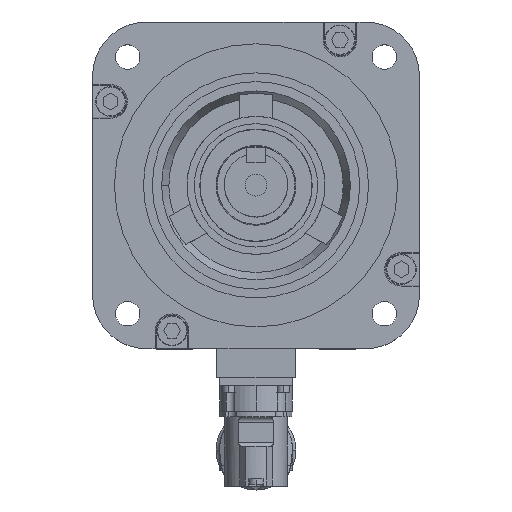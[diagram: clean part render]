
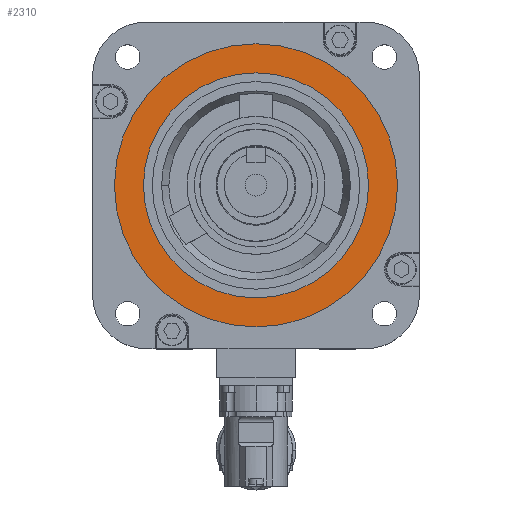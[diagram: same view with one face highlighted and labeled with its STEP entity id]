
A CAD part, top view. The second image highlights one B-rep face of the part: STEP entity #2310.
In plain terms, the highlighted planar face has unit normal (0, 0, 1).
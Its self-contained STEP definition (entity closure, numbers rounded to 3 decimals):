
#1116 = EDGE_CURVE ( 'NONE', #1120, #1126, #8826, .T. ) ;
#1120 = VERTEX_POINT ( 'NONE', #8810 ) ;
#1126 = VERTEX_POINT ( 'NONE', #8866 ) ;
#1419 = VERTEX_POINT ( 'NONE', #9391 ) ;
#1429 = EDGE_CURVE ( 'NONE', #1442, #1419, #9429, .T. ) ;
#1442 = VERTEX_POINT ( 'NONE', #9416 ) ;
#2286 = ORIENTED_EDGE ( 'NONE', *, *, #1429, .F. ) ;
#2287 = ORIENTED_EDGE ( 'NONE', *, *, #1116, .T. ) ;
#2291 = EDGE_LOOP ( 'NONE', ( #2292, #2286 ) ) ;
#2292 = ORIENTED_EDGE ( 'NONE', *, *, #2294, .F. ) ;
#2294 = EDGE_CURVE ( 'NONE', #1419, #1442, #11239, .T. ) ;
#2299 = EDGE_LOOP ( 'NONE', ( #2300, #2287 ) ) ;
#2300 = ORIENTED_EDGE ( 'NONE', *, *, #2305, .T. ) ;
#2305 = EDGE_CURVE ( 'NONE', #1126, #1120, #11287, .T. ) ;
#2310 = ADVANCED_FACE ( 'NONE', ( #11274, #11269 ), #11268, .T. ) ;
#8810 = CARTESIAN_POINT ( 'NONE',  ( -78., 0., -0.5 ) ) ;
#8822 = DIRECTION ( 'NONE',  ( 1., 0., 0. ) ) ;
#8823 = DIRECTION ( 'NONE',  ( 0., 0., 1. ) ) ;
#8824 = CARTESIAN_POINT ( 'NONE',  ( 0., 0., -0.5 ) ) ;
#8825 = AXIS2_PLACEMENT_3D ( 'NONE', #8824, #8823, #8822 ) ;
#8826 = CIRCLE ( 'NONE', #8825, 78. ) ;
#8866 = CARTESIAN_POINT ( 'NONE',  ( 78., 0., -0.5 ) ) ;
#9391 = CARTESIAN_POINT ( 'NONE',  ( -62., 0., -0.5 ) ) ;
#9416 = CARTESIAN_POINT ( 'NONE',  ( 62., 0., -0.5 ) ) ;
#9425 = DIRECTION ( 'NONE',  ( 1., 0., 0. ) ) ;
#9426 = DIRECTION ( 'NONE',  ( 0., 0., 1. ) ) ;
#9427 = CARTESIAN_POINT ( 'NONE',  ( 0., 0., -0.5 ) ) ;
#9428 = AXIS2_PLACEMENT_3D ( 'NONE', #9427, #9426, #9425 ) ;
#9429 = CIRCLE ( 'NONE', #9428, 62. ) ;
#11235 = DIRECTION ( 'NONE',  ( 1., 0., 0. ) ) ;
#11236 = DIRECTION ( 'NONE',  ( 0., 0., 1. ) ) ;
#11237 = CARTESIAN_POINT ( 'NONE',  ( 0., 0., -0.5 ) ) ;
#11238 = AXIS2_PLACEMENT_3D ( 'NONE', #11237, #11236, #11235 ) ;
#11239 = CIRCLE ( 'NONE', #11238, 62. ) ;
#11264 = DIRECTION ( 'NONE',  ( 1., 0., 0. ) ) ;
#11265 = DIRECTION ( 'NONE',  ( 0., 0., 1. ) ) ;
#11266 = CARTESIAN_POINT ( 'NONE',  ( 0., 0., -0.5 ) ) ;
#11267 = AXIS2_PLACEMENT_3D ( 'NONE', #11266, #11265, #11264 ) ;
#11268 = PLANE ( 'NONE',  #11267 ) ;
#11269 = FACE_BOUND ( 'NONE', #2291, .T. ) ;
#11274 = FACE_OUTER_BOUND ( 'NONE', #2299, .T. ) ;
#11283 = DIRECTION ( 'NONE',  ( 1., 0., 0. ) ) ;
#11284 = DIRECTION ( 'NONE',  ( 0., 0., 1. ) ) ;
#11285 = CARTESIAN_POINT ( 'NONE',  ( 0., 0., -0.5 ) ) ;
#11286 = AXIS2_PLACEMENT_3D ( 'NONE', #11285, #11284, #11283 ) ;
#11287 = CIRCLE ( 'NONE', #11286, 78. ) ;
